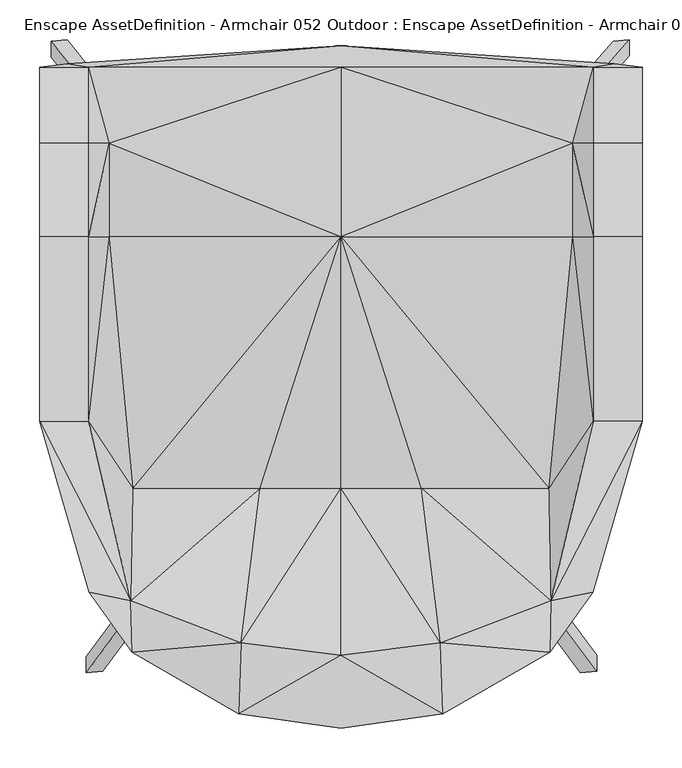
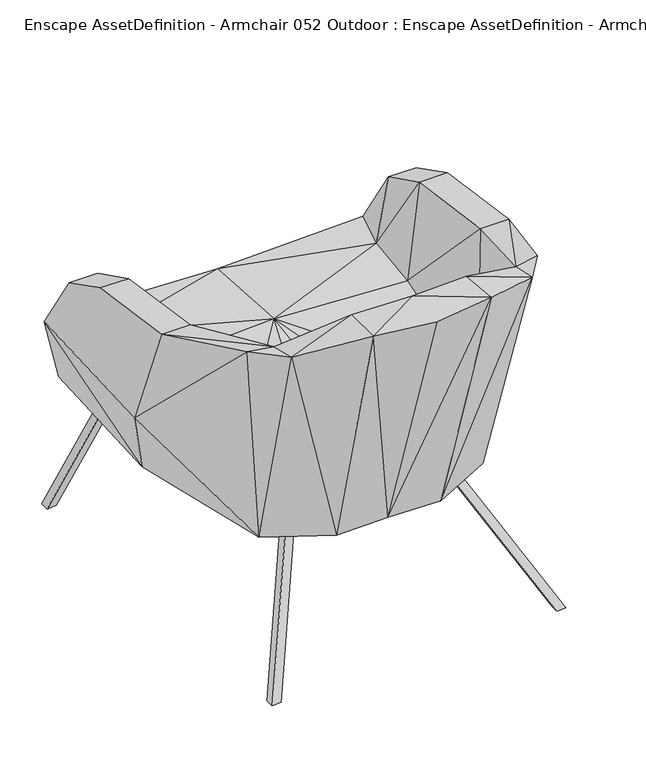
"""IFC4 building model written with IfcOpenShell, lengths in millimetres: geographic element geometry, Enscape AssetDefinition - Armchair 052 Outdoor : Enscape AssetDefinition - Armchair 052 Outdoor."""

from ifc_helpers import new_model, si_unit, origin, place, context, project, spatial, triangles, source, transform, mapped, element, save


def enscape_assetdefinition_armchair_052_outdoor_enscape_d5c26a59(model_context):
    return source(origin(), model_context, "Body", "Tessellation", [
        triangles([(-320.6189472, -407.2730693, -6.05e-05), (-174.8338778, -230.240434, 279.9602371), (-300.1300452, -405.5490103, -3.03e-05), (-174.8338778, -210.2283016, 279.9602371), (-154.3449576, -208.5042244, 279.9602371), (-320.6189109, -427.2852199, -6.05e-05), (-300.1300089, -425.5611609, -3.03e-05), (-154.3449576, -228.5163387, 279.9602371), (342.9941076, 367.3208931, 2.02e-05), (249.8019762, 260.8979377, 309.343618), (363.483046, 369.0450248, 4.04e-05), (342.9941076, 347.3087789, 2.02e-05), (270.2908782, 262.6219422, 309.343618), (270.2908782, 242.6099007, 309.343618), (249.8019762, 240.8858053, 309.343618), (363.483046, 349.0328742, 4.04e-05), (-1.51e-05, 361.7640738, 302.7158976), (-336.4615485, 36.9883355, 275.6303234), (-344.2271356, 338.9387592, 302.7158612), (-244.7401667, -245.3693434, 251.595326), (-379.355442, 334.4887765, 445.1122931), (-379.3554783, 238.8804408, 593.5861519), (-379.3554783, -110.8788698, 686.1605885), (-379.3554783, -8.3710069, 431.816593), (-317.6680009, 238.8804408, 593.5861519), (-379.3554783, 121.1970717, 652.4672235), (-317.6679282, 121.1970354, 652.4672235), (-264.5019874, -337.2286892, 754.271184), (-317.2268578, -326.13667, 754.2711113), (-263.1152261, -401.9581684, 769.5884903), (-317.6679282, -110.8789061, 686.1605885), (-291.676546, 121.1970354, 433.9988726), (-261.8288402, -195.6860933, 393.6069703), (-3.53e-05, 121.1970717, 448.6195281), (-125.6287871, -389.6137911, 811.9789261), (-2.52e-05, -195.6860933, 402.0398131), (-101.5884758, -195.686057, 400.5552017), (101.5884303, -195.6860752, 400.5552381), (-7.57e-05, -497.410954, 816.3037348), (-128.6027607, -479.0720661, 817.3852821), (-7.57e-05, -405.4290685, 820.808329), (125.6286326, -389.6137911, 811.9789988), (128.6025972, -479.0721388, 817.3852821), (-114.13969, -312.9439433, 251.5953442), (-1.01e-05, -310.4650249, 251.5953442), (263.1150444, -401.9581684, 769.588563), (114.1396809, -312.9439796, 251.5953442), (-81.8395813, -102.4055316, 263.6128338), (-1.51e-05, 36.9883786, 275.6303779), (244.7401849, -245.3693434, 251.5953805), (-3.03e-05, 334.4887765, 435.2395308), (317.6678555, 334.4887765, 445.1123657), (344.2271356, 338.9388682, 302.7159521), (-291.6766186, 238.8804408, 449.2985564), (-317.6679282, 334.4887038, 445.1122931), (379.355442, 334.4887765, 445.1123657), (317.6678555, 238.8804408, 593.5862246), (336.4615122, 36.9883355, 275.6304142), (291.6764915, 238.8804408, 449.2986291), (379.3553329, 238.8805135, 593.5862246), (379.3553693, -8.3710467, 431.8166656), (379.3553329, 121.1970717, 652.4673689), (317.6678555, 121.1970717, 652.4673689), (379.3553329, -110.8788698, 686.1606611), (317.2267488, -326.1367064, 754.2712566), (81.8395722, -102.4055316, 263.6128883), (261.8288039, -195.6860933, 393.6070066), (264.5018057, -337.2286892, 754.2712566), (317.6678555, -110.8788698, 686.1606611), (291.6764915, 121.1970717, 433.9989816), (301.8156073, -407.273142, 2.02e-05), (155.1733046, -230.2404704, 279.9602735), (301.8156073, -427.2852562, 2.02e-05), (155.1733046, -210.2283561, 279.9602735), (175.6622247, -208.5042789, 279.9602735), (322.3045275, -405.5490103, 4.04e-05), (322.3045275, -425.5611609, 4.04e-05), (175.6622247, -228.516375, 279.9602735), (-365.0747729, 367.3208931, -6.05e-05), (-344.5858709, 369.0450248, -6.05e-05), (-365.0747729, 347.3088879, -6.05e-05), (-280.4573725, 260.8979377, 309.3435453), (-280.4573543, 240.885878, 309.3435453), (-259.9684341, 262.6220331, 309.3435453), (-259.9683978, 242.6099007, 309.3435453), (-344.5858709, 349.0328742, -6.05e-05)], [[85, 86, 84], [80, 84, 86], [86, 81, 80], [86, 85, 81], [85, 84, 83], [83, 81, 85], [82, 83, 84], [84, 80, 82], [79, 80, 81], [79, 82, 80], [81, 83, 79], [82, 79, 83], [78, 77, 75], [76, 75, 77], [77, 73, 76], [77, 78, 73], [78, 75, 72], [72, 73, 78], [74, 72, 75], [75, 76, 74], [71, 76, 73], [71, 74, 76], [73, 72, 71], [74, 71, 72], [70, 59, 34], [38, 67, 34], [34, 67, 70], [67, 69, 70], [42, 68, 38], [38, 68, 67], [67, 68, 69], [68, 42, 46], [50, 46, 47], [66, 50, 47], [46, 50, 65], [65, 68, 46], [69, 68, 64], [65, 64, 68], [70, 63, 59], [70, 69, 63], [69, 64, 63], [62, 63, 64], [61, 65, 50], [61, 62, 64], [61, 64, 65], [61, 50, 58], [61, 60, 62], [63, 62, 57], [59, 63, 57], [57, 62, 60], [61, 58, 56], [61, 56, 60], [60, 56, 57], [56, 58, 53], [52, 57, 56], [59, 57, 52], [56, 53, 52], [51, 54, 34], [51, 34, 59], [51, 59, 52], [55, 54, 51], [53, 58, 17], [17, 51, 52], [52, 53, 17], [55, 51, 17], [58, 50, 49], [66, 47, 49], [66, 49, 50], [49, 17, 58], [48, 20, 49], [48, 49, 44], [44, 20, 48], [30, 20, 44], [45, 49, 47], [45, 44, 49], [47, 43, 45], [43, 46, 42], [43, 47, 46], [45, 43, 39], [39, 40, 45], [40, 30, 44], [45, 40, 44], [42, 41, 43], [39, 41, 40], [39, 43, 41], [38, 36, 42], [38, 34, 36], [41, 42, 36], [41, 36, 35], [40, 35, 30], [41, 35, 40], [36, 34, 37], [36, 37, 35], [34, 33, 37], [32, 33, 34], [54, 32, 34], [54, 27, 32], [32, 31, 33], [27, 31, 32], [33, 28, 37], [35, 28, 30], [37, 28, 35], [31, 28, 33], [30, 29, 20], [30, 28, 29], [29, 28, 23], [31, 27, 23], [28, 31, 23], [27, 26, 23], [25, 27, 54], [55, 25, 54], [25, 26, 27], [22, 26, 25], [26, 22, 24], [23, 26, 24], [29, 23, 24], [29, 24, 20], [22, 25, 21], [22, 21, 24], [25, 55, 21], [49, 18, 17], [21, 18, 24], [20, 18, 49], [18, 20, 24], [19, 18, 21], [17, 19, 55], [55, 19, 21], [18, 19, 17], [14, 16, 13], [11, 13, 16], [16, 12, 11], [16, 14, 12], [14, 13, 15], [15, 12, 14], [10, 15, 13], [13, 11, 10], [9, 11, 12], [9, 10, 11], [12, 15, 9], [10, 9, 15], [8, 7, 5], [3, 5, 7], [7, 6, 3], [7, 8, 6], [8, 5, 2], [2, 6, 8], [4, 2, 5], [5, 3, 4], [1, 3, 6], [1, 4, 3], [6, 2, 1], [4, 1, 2]]),
    ])


if __name__ == "__main__":
    model = new_model("IFC4")
    model_context = context("Model", 3, world=origin())
    ifc_project = project(units=[si_unit("LENGTHUNIT", "METRE", prefix="MILLI")], contexts=[model_context])
    site = spatial("IfcSite", under=ifc_project)
    building = spatial("IfcBuilding", under=site)
    placement = place(None, origin())
    enscape_assetdefinition_armchair_052_outdoor_enscape_shape = enscape_assetdefinition_armchair_052_outdoor_enscape_d5c26a59(model_context)
    element("IfcGeographicElement", 1, ObjectType="Enscape AssetDefinition - Armchair 052 Outdoor : Enscape AssetDefinition - Armchair 052 Outdoor", at=placement, inside=building, context=model_context, shape_type="MappedRepresentation", body=[
        mapped(enscape_assetdefinition_armchair_052_outdoor_enscape_shape, transform((0.0, 0.0, 0.0), x_axis=(1.0, 0.0, 0.0), y_axis=(0.0, 1.0, 0.0), z_axis=(0.0, 0.0, 1.0))),
    ])
    save(model, "model.ifc")
